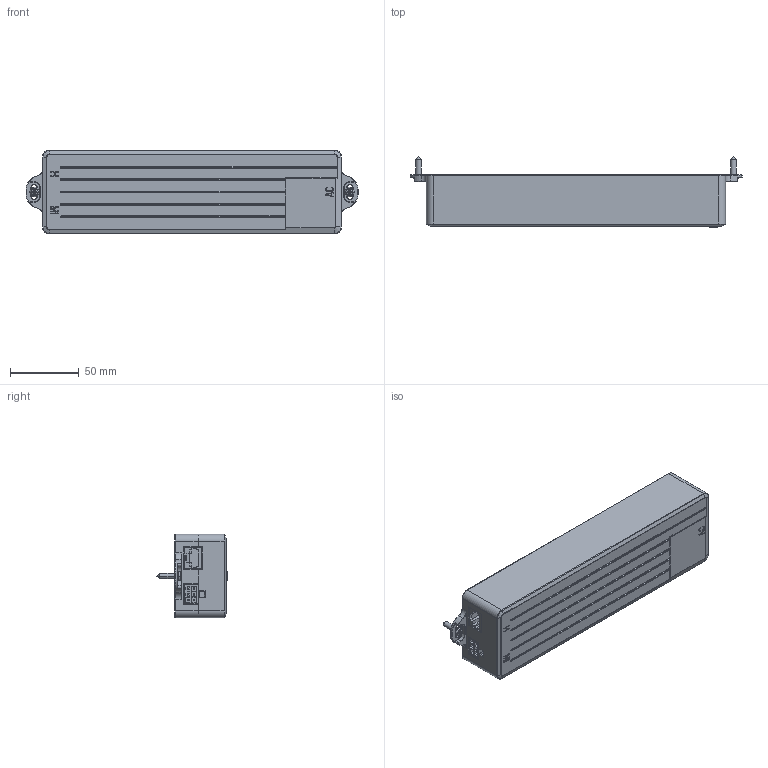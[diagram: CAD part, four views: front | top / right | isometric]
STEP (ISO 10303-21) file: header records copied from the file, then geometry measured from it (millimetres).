
FILE_DESCRIPTION((''),'2;1');
FILE_NAME('CF13_ASM_ASM','2019-11-21T',('user'),(''),'PRO/ENGINEER BY PARAMETRIC TECHNOLOGY CORPORATION, 2008090','PRO/ENGINEER BY PARAMETRIC TECHNOLOGY CORPORATION, 2008090','');
FILE_SCHEMA(('CONFIG_CONTROL_DESIGN'));
Length unit declared in the file: millimetre
Products named in the file (1): CF13_ASM_ASM
Bounding box: 242 x 51.2 x 61 mm (x, y, z)
Volume: 113792.2 mm3; surface area: 101041.8 mm2
Topology: 1 solids, 2 shells, 1324 faces, 3608 edges, 2278 vertices
Faces by surface type: plane 847, cylinder 252, torus 128, bspline 54, cone 37, sphere 6
Entity records: 45566 total; most frequent: CARTESIAN_POINT 12039, ORIENTED_EDGE 7200, DIRECTION 6730, EDGE_CURVE 3600, VECTOR 2656, LINE 2656, VERTEX_POINT 2278, AXIS2_PLACEMENT_3D 2037
